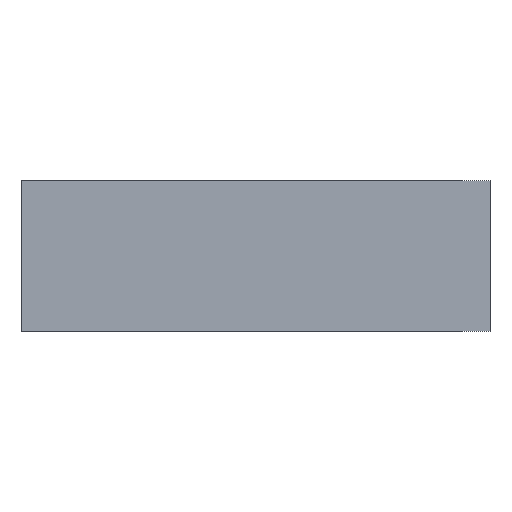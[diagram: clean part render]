
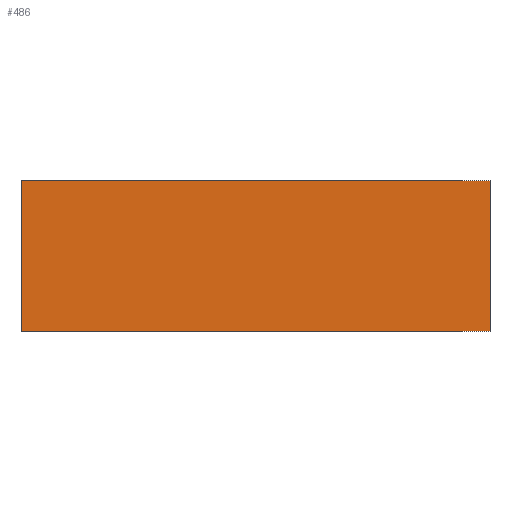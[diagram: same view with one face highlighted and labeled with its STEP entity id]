
A CAD part, front view. The second image highlights one B-rep face of the part: STEP entity #486.
In plain terms, the highlighted planar face has unit normal (0, -1, 0).
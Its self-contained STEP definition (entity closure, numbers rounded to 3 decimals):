
#7 = VECTOR ( 'NONE', #259, 1000. ) ;
#31 = ORIENTED_EDGE ( 'NONE', *, *, #615, .T. ) ;
#44 = LINE ( 'NONE', #264, #7 ) ;
#124 = FACE_OUTER_BOUND ( 'NONE', #811, .T. ) ;
#155 = ORIENTED_EDGE ( 'NONE', *, *, #622, .T. ) ;
#156 = ORIENTED_EDGE ( 'NONE', *, *, #606, .F. ) ;
#157 = ORIENTED_EDGE ( 'NONE', *, *, #621, .F. ) ;
#212 = DIRECTION ( 'NONE',  ( 0., 0., -1. ) ) ;
#213 = CARTESIAN_POINT ( 'NONE',  ( -101., 0., 65. ) ) ;
#215 = DIRECTION ( 'NONE',  ( 0., 0., -1. ) ) ;
#216 = CARTESIAN_POINT ( 'NONE',  ( 101., 0., 65. ) ) ;
#232 = DIRECTION ( 'NONE',  ( 1., 0., 0. ) ) ;
#233 = CARTESIAN_POINT ( 'NONE',  ( -101., 0., 0. ) ) ;
#259 = DIRECTION ( 'NONE',  ( 1., 0., 0. ) ) ;
#264 = CARTESIAN_POINT ( 'NONE',  ( -101., 0., 65. ) ) ;
#339 = PLANE ( 'NONE',  #902 ) ;
#350 = CARTESIAN_POINT ( 'NONE',  ( 101., 0., 65. ) ) ;
#367 = CARTESIAN_POINT ( 'NONE',  ( -101., 0., 65. ) ) ;
#375 = CARTESIAN_POINT ( 'NONE',  ( 101., 0., 0. ) ) ;
#381 = CARTESIAN_POINT ( 'NONE',  ( -101., 0., 0. ) ) ;
#467 = DIRECTION ( 'NONE',  ( -1., 0., 0. ) ) ;
#468 = DIRECTION ( 'NONE',  ( 0., 1., 0. ) ) ;
#474 = CARTESIAN_POINT ( 'NONE',  ( -101., 0., 65. ) ) ;
#486 = ADVANCED_FACE ( 'NONE', ( #124 ), #339, .F. ) ;
#518 = VERTEX_POINT ( 'NONE', #381 ) ;
#525 = VERTEX_POINT ( 'NONE', #375 ) ;
#530 = VERTEX_POINT ( 'NONE', #367 ) ;
#542 = VERTEX_POINT ( 'NONE', #350 ) ;
#606 = EDGE_CURVE ( 'NONE', #530, #542, #44, .T. ) ;
#615 = EDGE_CURVE ( 'NONE', #518, #525, #885, .T. ) ;
#621 = EDGE_CURVE ( 'NONE', #542, #525, #874, .T. ) ;
#622 = EDGE_CURVE ( 'NONE', #530, #518, #872, .T. ) ;
#811 = EDGE_LOOP ( 'NONE', ( #31, #157, #156, #155 ) ) ;
#871 = VECTOR ( 'NONE', #212, 1000. ) ;
#872 = LINE ( 'NONE', #213, #871 ) ;
#873 = VECTOR ( 'NONE', #215, 1000. ) ;
#874 = LINE ( 'NONE', #216, #873 ) ;
#884 = VECTOR ( 'NONE', #232, 1000. ) ;
#885 = LINE ( 'NONE', #233, #884 ) ;
#902 = AXIS2_PLACEMENT_3D ( 'NONE', #474, #468, #467 ) ;
